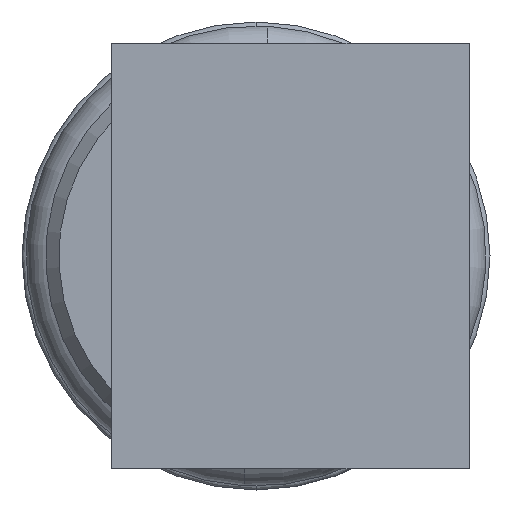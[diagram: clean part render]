
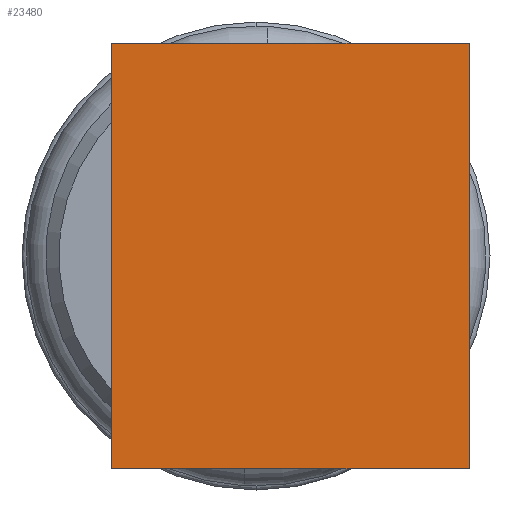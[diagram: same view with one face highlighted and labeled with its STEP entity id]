
A CAD part, left-side view. The second image highlights one B-rep face of the part: STEP entity #23480.
In plain terms, the highlighted planar face has unit normal (-1, 0, 0).
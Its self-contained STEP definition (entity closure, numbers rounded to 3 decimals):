
#616 = VERTEX_POINT ( 'NONE', #19452 ) ;
#849 = CARTESIAN_POINT ( 'NONE',  ( -175., 5.5, -15. ) ) ;
#1184 = DIRECTION ( 'NONE',  ( 0., 1., 0. ) ) ;
#1817 = AXIS2_PLACEMENT_3D ( 'NONE', #12162, #21282, #15920 ) ;
#2055 = LINE ( 'NONE', #17561, #4254 ) ;
#2505 = ORIENTED_EDGE ( 'NONE', *, *, #16118, .T. ) ;
#2971 = DIRECTION ( 'NONE',  ( 0., 0., 1. ) ) ;
#3525 = CARTESIAN_POINT ( 'NONE',  ( -175., -8.113, -8.1 ) ) ;
#4254 = VECTOR ( 'NONE', #9954, 1000. ) ;
#5185 = CARTESIAN_POINT ( 'NONE',  ( -175., -12.5, -8.1 ) ) ;
#6897 = ORIENTED_EDGE ( 'NONE', *, *, #12408, .F. ) ;
#6940 = LINE ( 'NONE', #5185, #15397 ) ;
#7639 = EDGE_LOOP ( 'NONE', ( #6897, #22586, #2505, #13327 ) ) ;
#8777 = EDGE_CURVE ( 'NONE', #616, #8873, #16601, .T. ) ;
#8873 = VERTEX_POINT ( 'NONE', #16352 ) ;
#9120 = VERTEX_POINT ( 'NONE', #9852 ) ;
#9421 = VECTOR ( 'NONE', #23389, 1000. ) ;
#9852 = CARTESIAN_POINT ( 'NONE',  ( -175., -8.113, 8.1 ) ) ;
#9954 = DIRECTION ( 'NONE',  ( 0., 1., 0. ) ) ;
#12162 = CARTESIAN_POINT ( 'NONE',  ( -175., -179.63, -15. ) ) ;
#12408 = EDGE_CURVE ( 'NONE', #15321, #616, #6940, .T. ) ;
#13327 = ORIENTED_EDGE ( 'NONE', *, *, #8777, .F. ) ;
#13753 = CARTESIAN_POINT ( 'NONE',  ( -175., -8.113, -15. ) ) ;
#15321 = VERTEX_POINT ( 'NONE', #3525 ) ;
#15397 = VECTOR ( 'NONE', #1184, 1000. ) ;
#15920 = DIRECTION ( 'NONE',  ( 0., -1., 0. ) ) ;
#16118 = EDGE_CURVE ( 'NONE', #9120, #8873, #2055, .T. ) ;
#16352 = CARTESIAN_POINT ( 'NONE',  ( -175., 5.5, 8.1 ) ) ;
#16601 = LINE ( 'NONE', #849, #18947 ) ;
#17561 = CARTESIAN_POINT ( 'NONE',  ( -175., -12.5, 8.1 ) ) ;
#18947 = VECTOR ( 'NONE', #2971, 1000. ) ;
#19452 = CARTESIAN_POINT ( 'NONE',  ( -175., 5.5, -8.1 ) ) ;
#21282 = DIRECTION ( 'NONE',  ( -1., 0., 0. ) ) ;
#21327 = EDGE_CURVE ( 'NONE', #15321, #9120, #23263, .T. ) ;
#22586 = ORIENTED_EDGE ( 'NONE', *, *, #21327, .T. ) ;
#23263 = LINE ( 'NONE', #13753, #9421 ) ;
#23305 = PLANE ( 'NONE',  #1817 ) ;
#23389 = DIRECTION ( 'NONE',  ( 0., 0., 1. ) ) ;
#23480 = ADVANCED_FACE ( 'NONE', ( #24556 ), #23305, .T. ) ;
#24556 = FACE_OUTER_BOUND ( 'NONE', #7639, .T. ) ;
